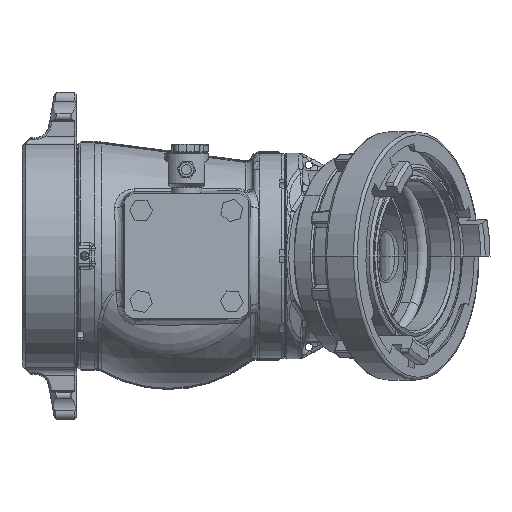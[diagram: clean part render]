
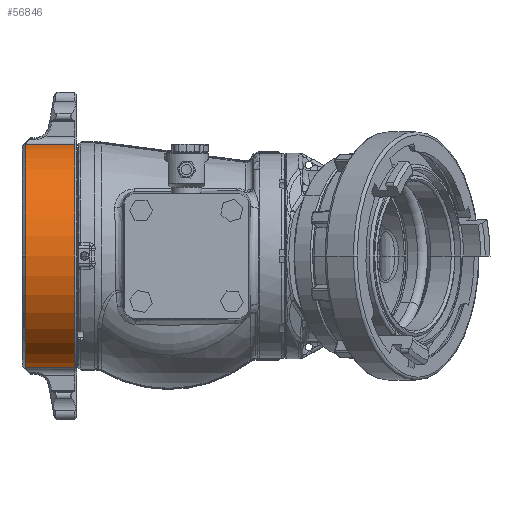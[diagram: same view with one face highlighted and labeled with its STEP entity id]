
A CAD part, front view. The second image highlights one B-rep face of the part: STEP entity #56846.
In plain terms, the highlighted cylindrical face has radius 98.425 mm (diameter 196.85 mm), a partial arc.
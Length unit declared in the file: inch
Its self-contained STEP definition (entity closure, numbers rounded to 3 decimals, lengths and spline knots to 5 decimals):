
#9723 = CARTESIAN_POINT ( 'NONE',  ( -5.88715, -1.13098, 3.81329 ) ) ;
#9724 = CARTESIAN_POINT ( 'NONE',  ( -5.88715, -4.31719, 0. ) ) ;
#12072 = FACE_OUTER_BOUND ( 'NONE', #23722, .T. ) ;
#12078 = CYLINDRICAL_SURFACE ( 'NONE', #17323, 3.875 ) ;
#17323 = AXIS2_PLACEMENT_3D ( 'NONE', #31952, #31950, #31943 ) ;
#17668 = CARTESIAN_POINT ( 'NONE',  ( -6.01215, -1.13098, -3.81329 ) ) ;
#17670 = DIRECTION ( 'NONE',  ( 1., 0., 0. ) ) ;
#17675 = CARTESIAN_POINT ( 'NONE',  ( -6.01215, -1.13098, 3.81329 ) ) ;
#17680 = DIRECTION ( 'NONE',  ( 1., 0., 0. ) ) ;
#17697 = CARTESIAN_POINT ( 'NONE',  ( -4.21165, -0.44219, 0. ) ) ;
#17698 = DIRECTION ( 'NONE',  ( -1., 0., 0. ) ) ;
#17699 = DIRECTION ( 'NONE',  ( 0., 0., -1. ) ) ;
#17702 = CARTESIAN_POINT ( 'NONE',  ( -5.88715, -0.44219, 0. ) ) ;
#17703 = DIRECTION ( 'NONE',  ( -1., 0., 0. ) ) ;
#17704 = DIRECTION ( 'NONE',  ( 0., 1., 0. ) ) ;
#18472 = AXIS2_PLACEMENT_3D ( 'NONE', #17697, #17698, #17699 ) ;
#18473 = AXIS2_PLACEMENT_3D ( 'NONE', #17702, #17703, #17704 ) ;
#18841 = AXIS2_PLACEMENT_3D ( 'NONE', #40482, #40483, #40484 ) ;
#19412 = VERTEX_POINT ( 'NONE', #9723 ) ;
#19413 = VERTEX_POINT ( 'NONE', #9724 ) ;
#21797 = CIRCLE ( 'NONE', #18472, 3.875 ) ;
#21798 = LINE ( 'NONE', #17668, #21800 ) ;
#21799 = LINE ( 'NONE', #17675, #21803 ) ;
#21800 = VECTOR ( 'NONE', #17670, 39.37008 ) ;
#21802 = CIRCLE ( 'NONE', #18473, 3.875 ) ;
#21803 = VECTOR ( 'NONE', #17680, 39.37008 ) ;
#23722 = EDGE_LOOP ( 'NONE', ( #62822, #62823, #62824, #62825, #62826 ) ) ;
#26237 = EDGE_CURVE ( 'NONE', #34461, #34455, #21798, .T. ) ;
#26239 = EDGE_CURVE ( 'NONE', #34455, #34458, #21797, .T. ) ;
#26240 = EDGE_CURVE ( 'NONE', #19412, #34458, #21799, .T. ) ;
#26241 = EDGE_CURVE ( 'NONE', #34461, #19413, #21802, .T. ) ;
#29445 = CARTESIAN_POINT ( 'NONE',  ( -4.21165, -1.13098, -3.81329 ) ) ;
#29448 = CARTESIAN_POINT ( 'NONE',  ( -4.21165, -1.13098, 3.81329 ) ) ;
#29451 = CARTESIAN_POINT ( 'NONE',  ( -5.88715, -1.13098, -3.81329 ) ) ;
#31943 = DIRECTION ( 'NONE',  ( 0., 0., -1. ) ) ;
#31950 = DIRECTION ( 'NONE',  ( 1., 0., 0. ) ) ;
#31952 = CARTESIAN_POINT ( 'NONE',  ( -6.01215, -0.44219, 0. ) ) ;
#34455 = VERTEX_POINT ( 'NONE', #29445 ) ;
#34458 = VERTEX_POINT ( 'NONE', #29448 ) ;
#34461 = VERTEX_POINT ( 'NONE', #29451 ) ;
#38051 = CIRCLE ( 'NONE', #18841, 3.875 ) ;
#40482 = CARTESIAN_POINT ( 'NONE',  ( -5.88715, -0.44219, 0. ) ) ;
#40483 = DIRECTION ( 'NONE',  ( -1., 0., 0. ) ) ;
#40484 = DIRECTION ( 'NONE',  ( 0., 1., 0. ) ) ;
#46664 = EDGE_CURVE ( 'NONE', #19413, #19412, #38051, .T. ) ;
#56846 = ADVANCED_FACE ( 'NONE', ( #12072 ), #12078, .T. ) ;
#62822 = ORIENTED_EDGE ( 'NONE', *, *, #26237, .T. ) ;
#62823 = ORIENTED_EDGE ( 'NONE', *, *, #26239, .T. ) ;
#62824 = ORIENTED_EDGE ( 'NONE', *, *, #26240, .F. ) ;
#62825 = ORIENTED_EDGE ( 'NONE', *, *, #46664, .F. ) ;
#62826 = ORIENTED_EDGE ( 'NONE', *, *, #26241, .F. ) ;
